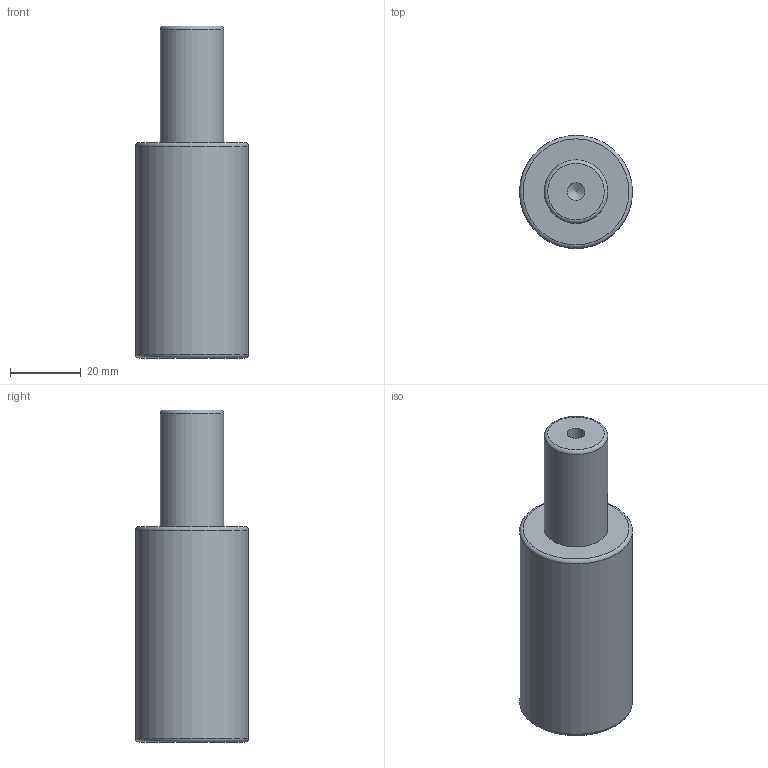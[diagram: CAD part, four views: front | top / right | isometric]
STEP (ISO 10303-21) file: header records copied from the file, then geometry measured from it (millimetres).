
FILE_DESCRIPTION(/* description */ (''),/* implementation_level */ '2;1');
FILE_NAME(/* name */ 'NV5-SMLX.32x32.stp',/* time_stamp */ '2018-08-31T16:08:37+02:00',/* author */ (''),/* organization */ (''),/* preprocessor_version */ 'ST-DEVELOPER v16',/* originating_system */ 'SIEMENS PLM Software NX 10.0',/* authorisation */ '');
FILE_SCHEMA (('AUTOMOTIVE_DESIGN { 1 0 10303 214 3 1 1 1 }'));
Length unit declared in the file: millimetre
Products named in the file (1): NV5-SMLX.32x32
Bounding box: 32 x 32 x 94 mm (x, y, z)
Volume: 56950.6 mm3; surface area: 9847.2 mm2
Topology: 1 solids, 1 shells, 12 faces, 24 edges, 15 vertices
Faces by surface type: cylinder 4, torus 3, plane 3, cone 2
Full cylindrical faces by diameter (mm): 5 x2, 18 x1, 32 x1
Entity records: 266 total; most frequent: DIRECTION 48, CARTESIAN_POINT 37, FACE_BOUND 24, AXIS2_PLACEMENT_3D 24, EDGE_LOOP 22, ORIENTED_EDGE 22, VERTEX_POINT 13, ADVANCED_FACE 12
